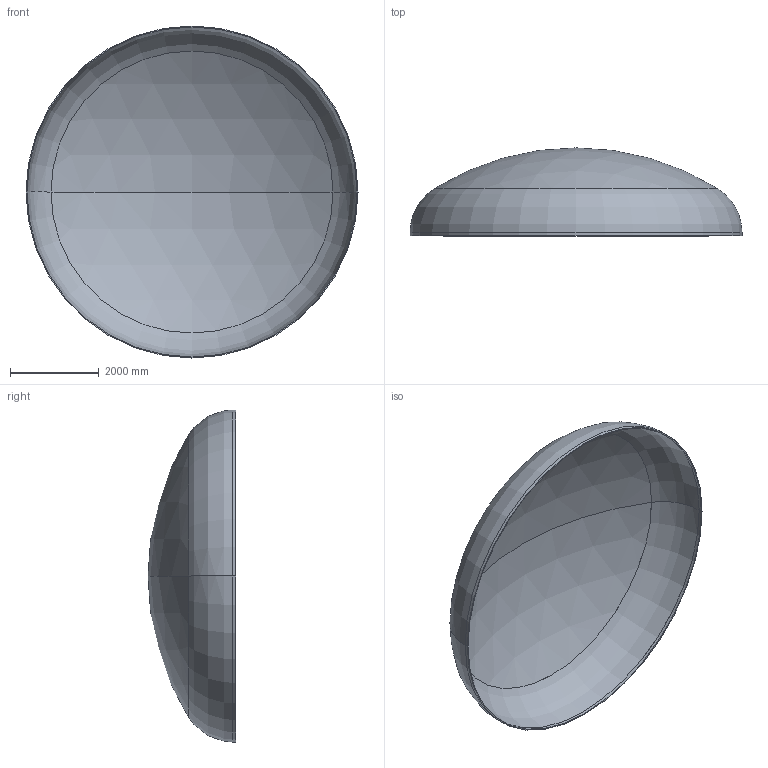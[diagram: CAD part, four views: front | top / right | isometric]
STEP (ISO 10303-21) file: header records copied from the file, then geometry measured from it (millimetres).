
FILE_DESCRIPTION (( 'STEP AP203' ), '1' );
FILE_NAME ('DIN 28013 Korbbogenform_-_Boden DIN 28013 - 7500 x 70 - I - s=22.step', '2016-07-04T10:52:15', ( '' ), ( '' ), 'SwSTEP 2.0', 'SolidWorks 2013', '' );
FILE_SCHEMA (( 'CONFIG_CONTROL_DESIGN' ));
Length unit declared in the file: millimetre
Products named in the file (1): DIN 28013 Korbbogenform_-_Boden DIN 28013 - 7500 x 70 - I - s=22
Bounding box: 7500 x 1986.67 x 7500 mm (x, y, z)
Volume: 1377173922.6 mm3; surface area: 125715434.3 mm2
Topology: 1 solids, 1 shells, 13 faces, 24 edges, 14 vertices
Faces by surface type: torus 4, cylinder 4, sphere 4, plane 1
Entity records: 407 total; most frequent: DIRECTION 72, CARTESIAN_POINT 52, ORIENTED_EDGE 48, AXIS2_PLACEMENT_3D 34, EDGE_CURVE 24, CIRCLE 20, EDGE_LOOP 14, VERTEX_POINT 14
